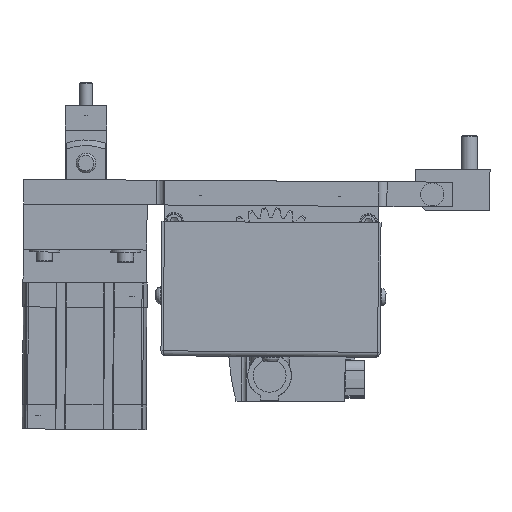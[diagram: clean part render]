
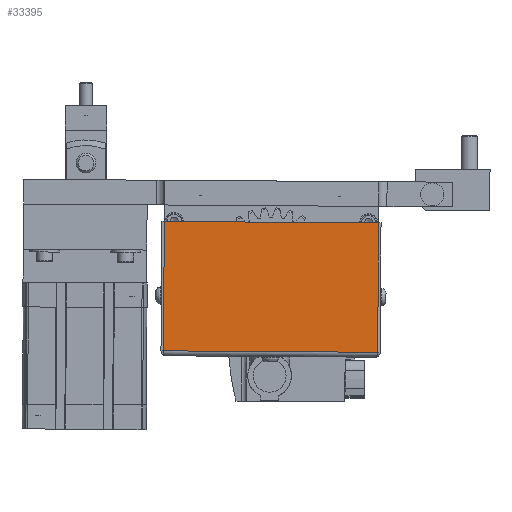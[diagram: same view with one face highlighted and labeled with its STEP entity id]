
A CAD part, front view. The second image highlights one B-rep face of the part: STEP entity #33395.
In plain terms, the highlighted planar face has unit normal (0, -1, 0) as drawn and (1, 0, 0) by its records, which use the part's own axes.
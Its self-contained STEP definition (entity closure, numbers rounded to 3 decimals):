
#1757=PLANE('',#36829);
#2955=LINE('',#52840,#5250);
#2961=LINE('',#52857,#5256);
#2967=LINE('',#52913,#5262);
#2969=LINE('',#52916,#5264);
#5250=VECTOR('',#42424,10.);
#5256=VECTOR('',#42438,10.);
#5262=VECTOR('',#42450,10.);
#5264=VECTOR('',#42454,10.);
#8507=FACE_OUTER_BOUND('',#10751,.T.);
#10751=EDGE_LOOP('',(#24885,#24886,#24887,#24888));
#15580=VERTEX_POINT('',#52838);
#15581=VERTEX_POINT('',#52839);
#15588=VERTEX_POINT('',#52856);
#15591=VERTEX_POINT('',#52912);
#19137=EDGE_CURVE('',#15580,#15581,#2955,.T.);
#19145=EDGE_CURVE('',#15588,#15581,#2961,.T.);
#19153=EDGE_CURVE('',#15580,#15591,#2967,.T.);
#19155=EDGE_CURVE('',#15591,#15588,#2969,.T.);
#24885=ORIENTED_EDGE('',*,*,#19137,.T.);
#24886=ORIENTED_EDGE('',*,*,#19145,.F.);
#24887=ORIENTED_EDGE('',*,*,#19155,.F.);
#24888=ORIENTED_EDGE('',*,*,#19153,.F.);
#33395=ADVANCED_FACE('',(#8507),#1757,.T.);
#36829=AXIS2_PLACEMENT_3D('',#52917,#42455,#42456);
#42424=DIRECTION('',(0.,0.,1.));
#42438=DIRECTION('',(0.,1.,0.));
#42450=DIRECTION('',(0.,-1.,0.));
#42454=DIRECTION('',(0.,0.,1.));
#42455=DIRECTION('center_axis',(1.,0.,0.));
#42456=DIRECTION('ref_axis',(0.,0.,1.));
#52838=CARTESIAN_POINT('',(36.5,-1.5,-64.999));
#52839=CARTESIAN_POINT('',(36.5,-1.5,64.999));
#52840=CARTESIAN_POINT('',(36.5,-1.5,0.));
#52856=CARTESIAN_POINT('',(36.5,-80.,64.999));
#52857=CARTESIAN_POINT('',(36.5,-1.5,64.999));
#52912=CARTESIAN_POINT('',(36.5,-80.,-64.999));
#52913=CARTESIAN_POINT('',(36.5,-1.5,-64.999));
#52916=CARTESIAN_POINT('',(36.5,-80.,-64.999));
#52917=CARTESIAN_POINT('Origin',(36.5,-39.275,0.));
